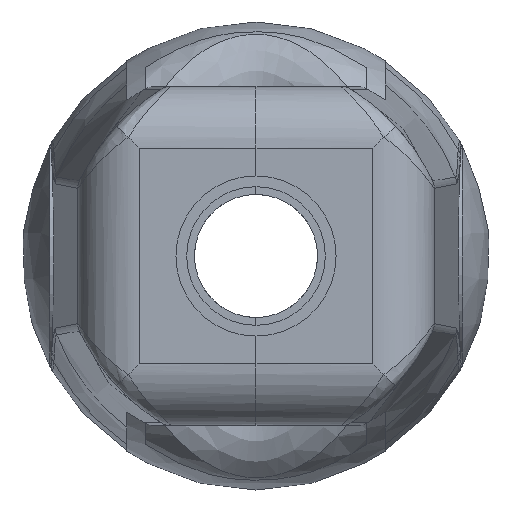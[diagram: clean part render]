
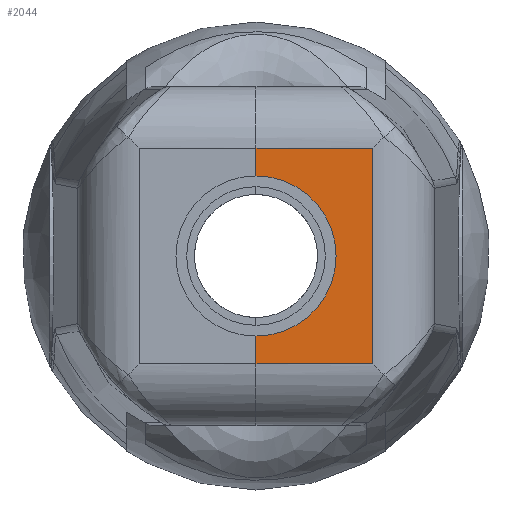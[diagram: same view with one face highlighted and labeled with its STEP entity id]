
A CAD part, front view. The second image highlights one B-rep face of the part: STEP entity #2044.
In plain terms, the highlighted planar face has unit normal (0, -1, 0).
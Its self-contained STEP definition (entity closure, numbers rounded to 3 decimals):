
#836=CARTESIAN_POINT('',(0.,-140.0,17.5));
#837=VERTEX_POINT('',#836);
#845=CARTESIAN_POINT('',(18.951,-140.0,17.5));
#846=VERTEX_POINT('',#845);
#847=CARTESIAN_POINT('',(0.,-140.0,17.5));
#848=DIRECTION('',(1.0,0.0,0.0));
#849=VECTOR('',#848,18.951);
#850=LINE('',#847,#849);
#851=EDGE_CURVE('',#837,#846,#850,.T.);
#1864=CARTESIAN_POINT('',(18.951,-140.0,-17.5));
#1865=VERTEX_POINT('',#1864);
#1866=CARTESIAN_POINT('',(18.951,-140.0,17.5));
#1867=DIRECTION('',(0.0,0.0,-1.0));
#1868=VECTOR('',#1867,35.0);
#1869=LINE('',#1866,#1868);
#1870=EDGE_CURVE('',#846,#1865,#1869,.T.);
#1912=CARTESIAN_POINT('',(0.,-140.0,-17.5));
#1913=VERTEX_POINT('',#1912);
#1914=CARTESIAN_POINT('',(18.951,-140.0,-17.5));
#1915=DIRECTION('',(-1.0,0.0,0.0));
#1916=VECTOR('',#1915,18.951);
#1917=LINE('',#1914,#1916);
#1918=EDGE_CURVE('',#1865,#1913,#1917,.T.);
#1962=CARTESIAN_POINT('',(0.,-140.0,13.));
#1963=VERTEX_POINT('',#1962);
#1970=CARTESIAN_POINT('',(0.,-140.0,13.));
#1971=DIRECTION('',(0.0,0.0,1.0));
#1972=VECTOR('',#1971,4.5);
#1973=LINE('',#1970,#1972);
#1974=EDGE_CURVE('',#1963,#837,#1973,.T.);
#1985=CARTESIAN_POINT('',(0.,-140.0,-13.));
#1986=VERTEX_POINT('',#1985);
#1987=CARTESIAN_POINT('',(0.,-140.0,-17.5));
#1988=DIRECTION('',(0.0,0.0,1.0));
#1989=VECTOR('',#1988,4.5);
#1990=LINE('',#1987,#1989);
#1991=EDGE_CURVE('',#1913,#1986,#1990,.T.);
#2025=CARTESIAN_POINT('',(21.,-140.0,-25.0));
#2026=DIRECTION('',(0.0,-1.0,0.0));
#2027=DIRECTION('',(0.0,0.0,-1.0));
#2028=AXIS2_PLACEMENT_3D('',#2025,#2026,#2027);
#2029=PLANE('',#2028);
#2030=ORIENTED_EDGE('',*,*,#1870,.F.);
#2031=ORIENTED_EDGE('',*,*,#851,.F.);
#2032=ORIENTED_EDGE('',*,*,#1974,.F.);
#2033=CARTESIAN_POINT('',(0.0,-140.0,0.0));
#2034=DIRECTION('',(0.0,1.0,0.0));
#2035=DIRECTION('',(1.0,0.0,0.0));
#2036=AXIS2_PLACEMENT_3D('',#2033,#2034,#2035);
#2037=CIRCLE('',#2036,13.);
#2038=EDGE_CURVE('',#1963,#1986,#2037,.T.);
#2039=ORIENTED_EDGE('',*,*,#2038,.T.);
#2040=ORIENTED_EDGE('',*,*,#1991,.F.);
#2041=ORIENTED_EDGE('',*,*,#1918,.F.);
#2042=EDGE_LOOP('',(#2030,#2031,#2032,#2039,#2040,#2041));
#2043=FACE_OUTER_BOUND('',#2042,.T.);
#2044=ADVANCED_FACE('',(#2043),#2029,.T.);
